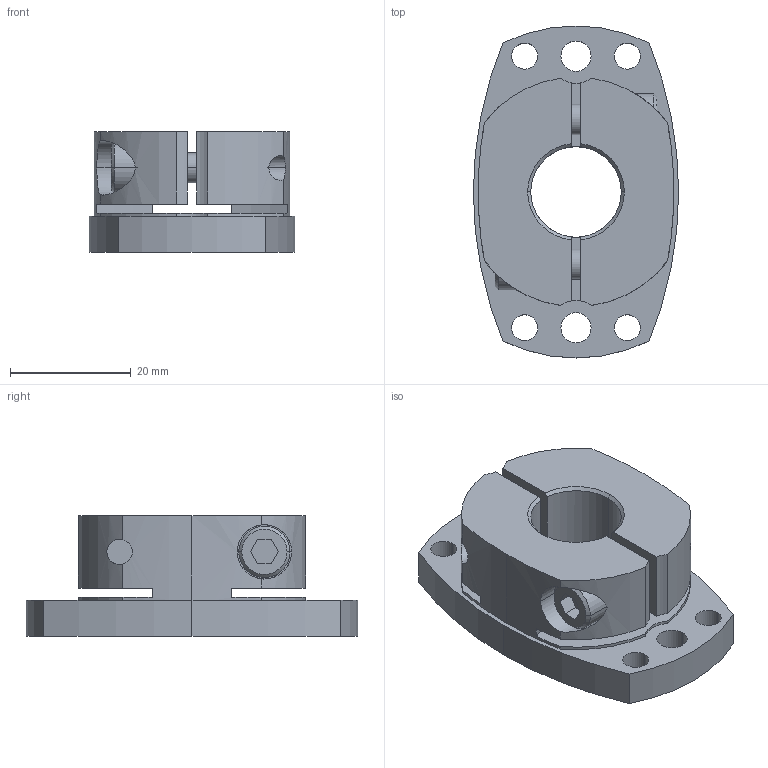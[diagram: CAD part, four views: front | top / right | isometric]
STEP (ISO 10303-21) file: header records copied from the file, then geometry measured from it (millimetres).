
FILE_DESCRIPTION((''),'2;1');
FILE_NAME('SHDB-55B-15.stp','2026-01-28T07:42:35',(''),(''),'AutoCAD STEP 2000i','AutoCAD 2000i',', , ');
FILE_SCHEMA(('CONFIG_CONTROL_DESIGN'));
Length unit declared in the file: millimetre
Products named in the file (2): SHDB-55B-10; 忣兜1
Assembly tree (1 placements, depth 2):
  SHDB-55B-10
    忣兜1
Bounding box: 34 x 55 x 20 mm (x, y, z)
Volume: 18357.8 mm3; surface area: 9090.3 mm2
Topology: 1 solids, 1 shells, 102 faces, 280 edges, 184 vertices
Faces by surface type: cylinder 58, plane 34, cone 10
Entity records: 3683 total; most frequent: CARTESIAN_POINT 856, DIRECTION 602, ORIENTED_EDGE 560, EDGE_CURVE 280, AXIS2_PLACEMENT_3D 238, VERTEX_POINT 184, CIRCLE 134, VECTOR 126
